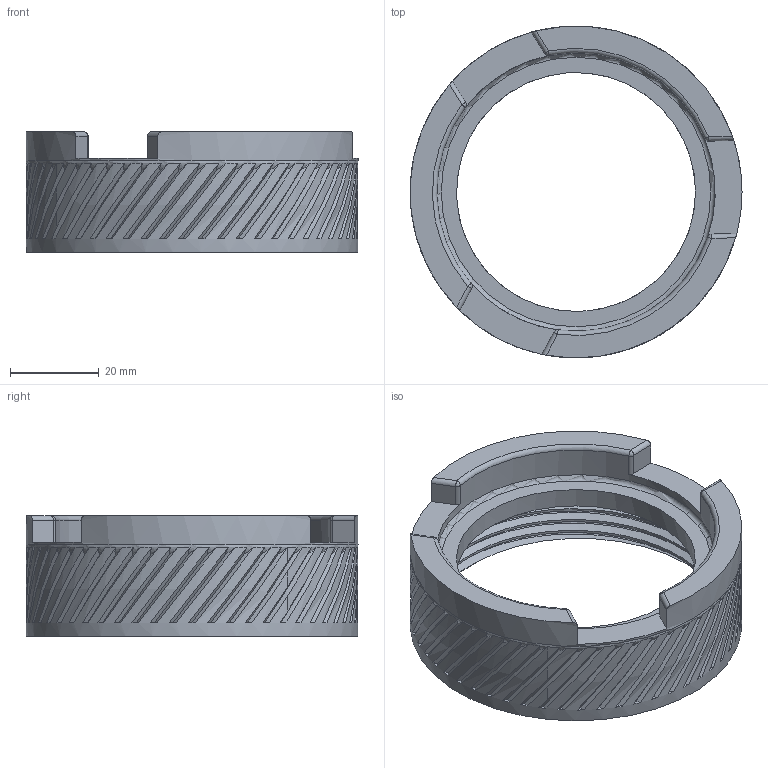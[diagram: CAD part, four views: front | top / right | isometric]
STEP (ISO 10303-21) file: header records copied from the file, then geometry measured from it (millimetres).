
FILE_DESCRIPTION(/* description */ ('STEP AP242','CAx-IF Rec.Pracs.---Representation and Presentation of Product Manufacturing Information (PMI)---4.0---2014-10-13','CAx-IF Rec.Pracs.---3D Tessellated Geometry---0.4---2014-09-14','2;1'),/* implementation_level */ '2;1');
FILE_NAME(/* name */ '6465ba3e7c5e517f9e04ee72',/* time_stamp */ '2023-05-18T05:40:14Z',/* author */ (''),/* organization */ (''),/* preprocessor_version */ 'ST-DEVELOPER v19.4',/* originating_system */ ' ',/* authorisation */ ' ');
FILE_SCHEMA (('AP242_MANAGED_MODEL_BASED_3D_ENGINEERING_MIM_LF { 1 0 10303 442 1 1 4 }'));
Length unit declared in the file: metre
Products named in the file (1): Base 26mm NoMagnet Lug
Bounding box: 75 x 75 x 27.2 mm (x, y, z)
Volume: 31657.8 mm3; surface area: 16964.2 mm2
Topology: 1 solids, 1 shells, 262 faces, 760 edges, 497 vertices
Faces by surface type: bspline 152, plane 75, cylinder 20, sphere 6, torus 5, cone 4
Full cylindrical faces by diameter (mm): 54 x1, 62.9 x1, 74.9 x1, 75 x1
Entity records: 15092 total; most frequent: CARTESIAN_POINT 9902, ORIENTED_EDGE 1464, EDGE_CURVE 732, DIRECTION 613, VERTEX_POINT 485, B_SPLINE_CURVE_WITH_KNOTS 330, EDGE_LOOP 271, FACE_BOUND 271
